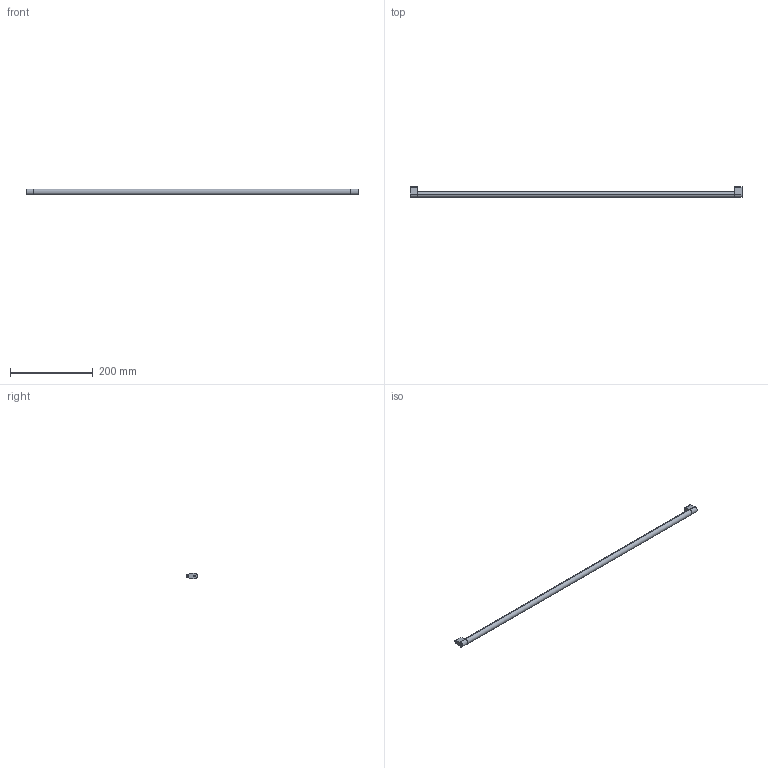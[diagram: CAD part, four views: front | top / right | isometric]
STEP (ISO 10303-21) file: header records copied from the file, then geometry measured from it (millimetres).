
FILE_DESCRIPTION (( 'STEP AP214' ), '1' );
FILE_NAME ('_Synchronisationseinheit DWD XP KAB900_S18.step', '2010-07-08T13:58:23', ( 'grass' ), ( '' ), 'SwSTEP 2.0', 'SolidWorks 2010', '' );
FILE_SCHEMA (( 'AUTOMOTIVE_DESIGN' ));
Length unit declared in the file: millimetre
Products named in the file (1): _Synchronisationseinheit DWD XP KAB900_S18
Bounding box: 803 x 26.5 x 14 mm (x, y, z)
Volume: 127299.1 mm3; surface area: 38164.8 mm2
Topology: 3 solids, 3 shells, 36 faces, 78 edges, 52 vertices
Faces by surface type: cylinder 18, plane 18
Entity records: 1050 total; most frequent: DIRECTION 188, CARTESIAN_POINT 167, ORIENTED_EDGE 156, EDGE_CURVE 78, AXIS2_PLACEMENT_3D 73, VERTEX_POINT 52, LINE 42, VECTOR 42
